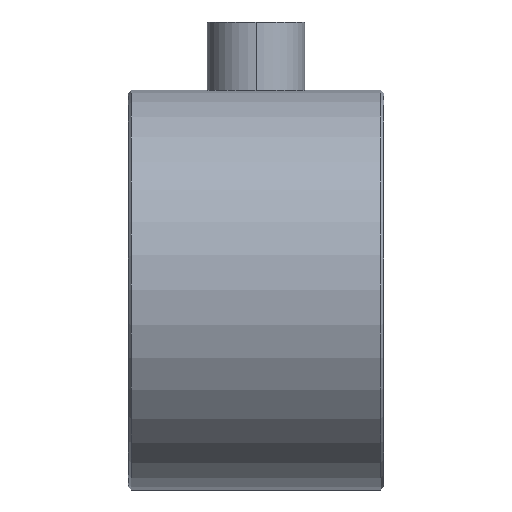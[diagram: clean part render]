
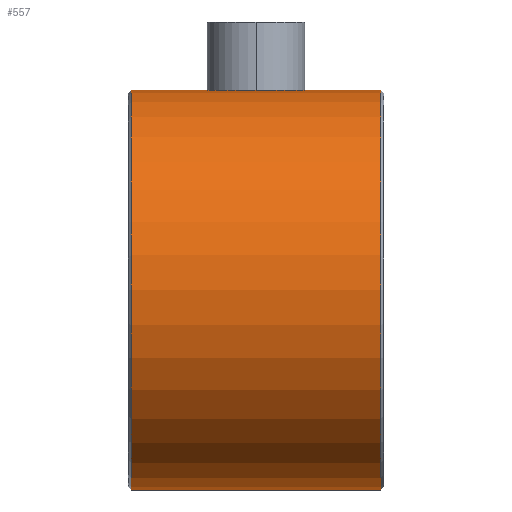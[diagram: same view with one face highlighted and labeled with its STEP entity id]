
A CAD part, left-side view. The second image highlights one B-rep face of the part: STEP entity #557.
In plain terms, the highlighted cylindrical face has radius 14.884 mm (diameter 29.769 mm), a partial arc.
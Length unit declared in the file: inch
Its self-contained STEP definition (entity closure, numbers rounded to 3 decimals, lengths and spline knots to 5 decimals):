
#4 = EDGE_CURVE ( 'NONE', #306, #321, #191, .T. ) ;
#13 = EDGE_CURVE ( 'NONE', #306, #314, #228, .T. ) ;
#20 = EDGE_CURVE ( 'NONE', #311, #314, #185, .T. ) ;
#26 = EDGE_CURVE ( 'NONE', #321, #311, #214, .T. ) ;
#58 = AXIS2_PLACEMENT_3D ( 'NONE', #369, #384, #376 ) ;
#61 = AXIS2_PLACEMENT_3D ( 'NONE', #508, #520, #511 ) ;
#68 = AXIS2_PLACEMENT_3D ( 'NONE', #325, #335, #302 ) ;
#112 = EDGE_LOOP ( 'NONE', ( #126, #198, #159, #158 ) ) ;
#126 = ORIENTED_EDGE ( 'NONE', *, *, #13, .F. ) ;
#158 = ORIENTED_EDGE ( 'NONE', *, *, #20, .T. ) ;
#159 = ORIENTED_EDGE ( 'NONE', *, *, #26, .T. ) ;
#185 = CIRCLE ( 'NONE', #58, 0.586 ) ;
#191 = CIRCLE ( 'NONE', #68, 0.586 ) ;
#193 = VECTOR ( 'NONE', #355, 39.37008 ) ;
#198 = ORIENTED_EDGE ( 'NONE', *, *, #4, .T. ) ;
#214 = LINE ( 'NONE', #345, #215 ) ;
#215 = VECTOR ( 'NONE', #346, 39.37008 ) ;
#228 = LINE ( 'NONE', #365, #193 ) ;
#273 = FACE_OUTER_BOUND ( 'NONE', #112, .T. ) ;
#283 = CYLINDRICAL_SURFACE ( 'NONE', #61, 0.586 ) ;
#302 = DIRECTION ( 'NONE',  ( 0., 0., 1. ) ) ;
#306 = VERTEX_POINT ( 'NONE', #414 ) ;
#311 = VERTEX_POINT ( 'NONE', #417 ) ;
#314 = VERTEX_POINT ( 'NONE', #428 ) ;
#321 = VERTEX_POINT ( 'NONE', #440 ) ;
#325 = CARTESIAN_POINT ( 'NONE',  ( 0., 0.74, 0. ) ) ;
#335 = DIRECTION ( 'NONE',  ( 0., -1., 0. ) ) ;
#345 = CARTESIAN_POINT ( 'NONE',  ( 0., 0.75, -0.586 ) ) ;
#346 = DIRECTION ( 'NONE',  ( 0., -1., 0. ) ) ;
#355 = DIRECTION ( 'NONE',  ( 0., -1., 0. ) ) ;
#365 = CARTESIAN_POINT ( 'NONE',  ( 0., 0.75, 0.586 ) ) ;
#369 = CARTESIAN_POINT ( 'NONE',  ( 0., 0.01, 0. ) ) ;
#376 = DIRECTION ( 'NONE',  ( 0., 0., 1. ) ) ;
#384 = DIRECTION ( 'NONE',  ( 0., 1., 0. ) ) ;
#414 = CARTESIAN_POINT ( 'NONE',  ( 0., 0.74, 0.586 ) ) ;
#417 = CARTESIAN_POINT ( 'NONE',  ( 0., 0.01, -0.586 ) ) ;
#428 = CARTESIAN_POINT ( 'NONE',  ( 0., 0.01, 0.586 ) ) ;
#440 = CARTESIAN_POINT ( 'NONE',  ( 0., 0.74, -0.586 ) ) ;
#508 = CARTESIAN_POINT ( 'NONE',  ( 0., 0.75, 0. ) ) ;
#511 = DIRECTION ( 'NONE',  ( 0., 0., -1. ) ) ;
#520 = DIRECTION ( 'NONE',  ( 0., -1., 0. ) ) ;
#557 = ADVANCED_FACE ( 'NONE', ( #273 ), #283, .T. ) ;
